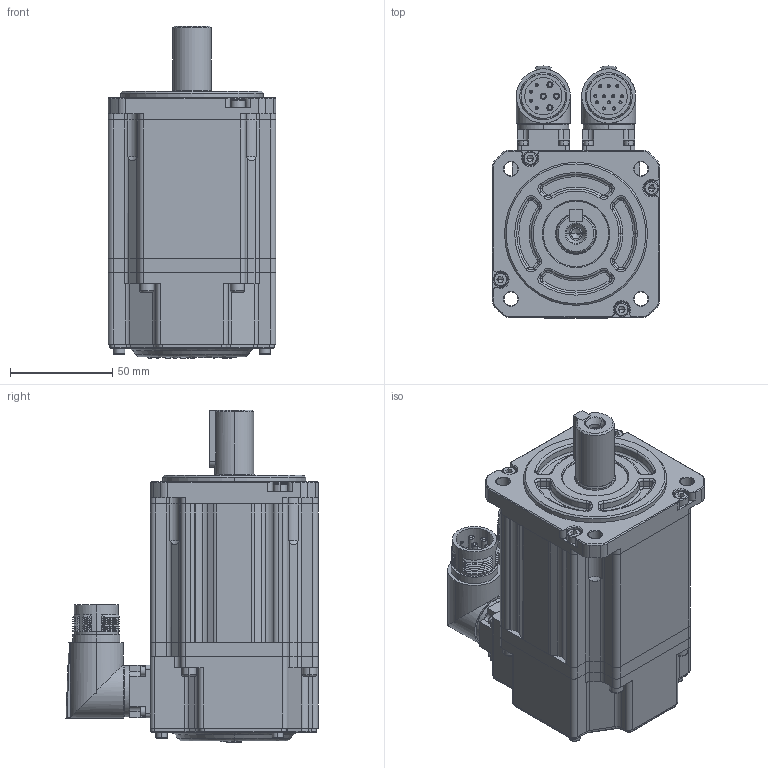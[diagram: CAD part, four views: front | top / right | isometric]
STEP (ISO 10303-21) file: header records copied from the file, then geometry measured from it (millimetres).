
FILE_DESCRIPTION (( 'STEP AP203' ), '1' );
FILE_NAME ('MC20-080-3L30-N751-0¡õPK-NNNN.STEP', '2025-05-04T11:47:02', ( '' ), ( '' ), 'SwSTEP 2.0', 'SolidWorks 2014', '' );
FILE_SCHEMA (( 'CONFIG_CONTROL_DESIGN' ));
Products named in the file (1): MC20-080-3L30-N751-0¡õPK-NNNN
Bounding box: 82 x 123.35 x 162.5 mm (x, y, z)
Volume: 867779.2 mm3; surface area: 143570.8 mm2
Topology: 28 solids, 28 shells, 1869 faces, 4422 edges, 2675 vertices
Faces by surface type: plane 754, cylinder 543, cone 316, torus 174, bspline 82
Entity records: 56181 total; most frequent: CARTESIAN_POINT 13056, DIRECTION 9351, ORIENTED_EDGE 8696, EDGE_CURVE 4348, AXIS2_PLACEMENT_3D 3609, VERTEX_POINT 2675, LINE 2133, VECTOR 2133
